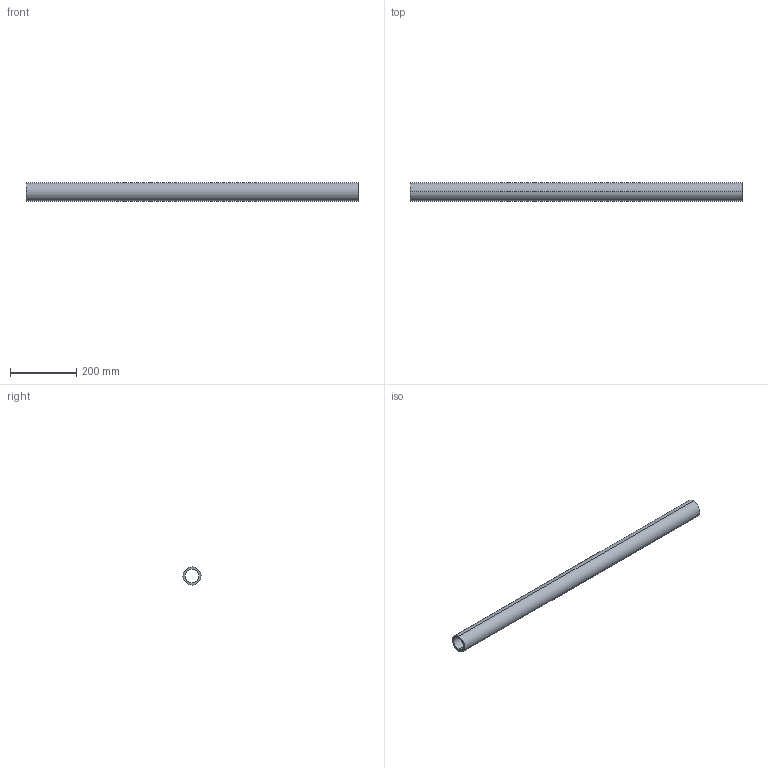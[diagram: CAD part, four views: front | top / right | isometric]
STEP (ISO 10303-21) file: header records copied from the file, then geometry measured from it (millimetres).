
FILE_DESCRIPTION (( 'STEP AP203' ), '1' );
FILE_NAME ('KP_54EC.step', '2011-08-08T11:50:33', ( '' ), ( '' ), 'SwSTEP 2.0', 'SolidWorks 2011', '' );
FILE_SCHEMA (( 'CONFIG_CONTROL_DESIGN' ));
Length unit declared in the file: millimetre
Products named in the file (1): KP_54EC
Bounding box: 1000 x 54.25 x 54.25 mm (x, y, z)
Volume: 978309.6 mm3; surface area: 301821.6 mm2
Topology: 1 solids, 1 shells, 6 faces, 12 edges, 8 vertices
Faces by surface type: cylinder 4, plane 2
Entity records: 245 total; most frequent: DIRECTION 34, CARTESIAN_POINT 27, ORIENTED_EDGE 24, AXIS2_PLACEMENT_3D 15, EDGE_CURVE 12, PERSON_AND_ORGANIZATION 8, VERTEX_POINT 8, EDGE_LOOP 8
